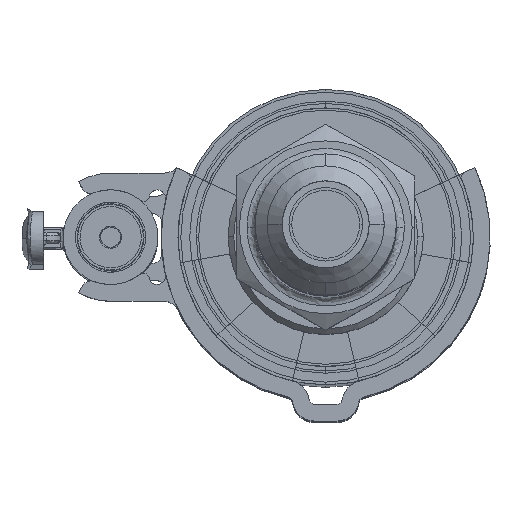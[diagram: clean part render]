
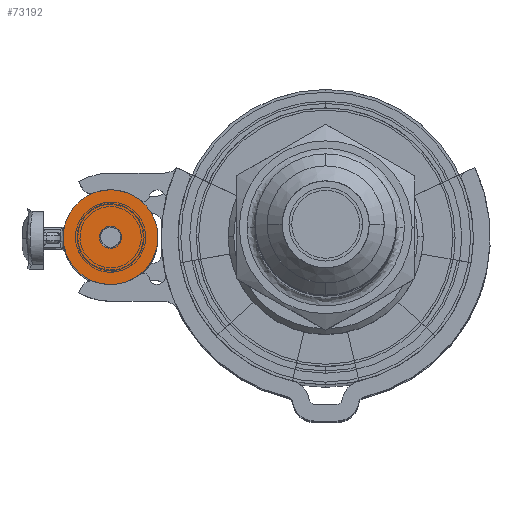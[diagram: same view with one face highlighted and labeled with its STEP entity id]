
A CAD part, top view. The second image highlights one B-rep face of the part: STEP entity #73192.
In plain terms, the highlighted planar face has unit normal (0, 0, 1) as drawn and (1, 0, 0) by its records, which use the part's own axes.
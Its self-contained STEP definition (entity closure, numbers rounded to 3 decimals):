
#3691 = EDGE_LOOP ( 'NONE', ( #46326, #62111 ) ) ;
#3835 = FACE_OUTER_BOUND ( 'NONE', #3691, .T. ) ;
#3983 = DIRECTION ( 'NONE',  ( -1., 0., 0. ) ) ;
#6310 = DIRECTION ( 'NONE',  ( 0., 0., -1. ) ) ;
#6573 = CIRCLE ( 'NONE', #28382, 4.25 ) ;
#16088 = CARTESIAN_POINT ( 'NONE',  ( 424.169, 14.095, 20. ) ) ;
#19881 = EDGE_CURVE ( 'NONE', #56633, #84940, #6573, .T. ) ;
#20196 = ORIENTED_EDGE ( 'NONE', *, *, #83480, .T. ) ;
#28216 = DIRECTION ( 'NONE',  ( -1., 0., 0. ) ) ;
#28382 = AXIS2_PLACEMENT_3D ( 'NONE', #88100, #43851, #95500 ) ;
#36430 = CARTESIAN_POINT ( 'NONE',  ( 424.169, 14.095, 19. ) ) ;
#42980 = AXIS2_PLACEMENT_3D ( 'NONE', #48153, #3983, #55612 ) ;
#43794 = DIRECTION ( 'NONE',  ( 0., 0., 1. ) ) ;
#43851 = DIRECTION ( 'NONE',  ( -1., 0., 0. ) ) ;
#46326 = ORIENTED_EDGE ( 'NONE', *, *, #19881, .F. ) ;
#48153 = CARTESIAN_POINT ( 'NONE',  ( 424.169, 14.095, 19. ) ) ;
#50504 = DIRECTION ( 'NONE',  ( 1., 0., 0. ) ) ;
#50872 = AXIS2_PLACEMENT_3D ( 'NONE', #72371, #28216, #79784 ) ;
#55612 = DIRECTION ( 'NONE',  ( 0., 0., -1. ) ) ;
#56203 = CIRCLE ( 'NONE', #42980, 1. ) ;
#56633 = VERTEX_POINT ( 'NONE', #84402 ) ;
#58210 = CIRCLE ( 'NONE', #50872, 1. ) ;
#60455 = FACE_BOUND ( 'NONE', #66031, .T. ) ;
#62111 = ORIENTED_EDGE ( 'NONE', *, *, #88989, .F. ) ;
#63800 = AXIS2_PLACEMENT_3D ( 'NONE', #36430, #88040, #43794 ) ;
#66031 = EDGE_LOOP ( 'NONE', ( #20196, #84658 ) ) ;
#72323 = EDGE_CURVE ( 'NONE', #77409, #73988, #58210, .T. ) ;
#72371 = CARTESIAN_POINT ( 'NONE',  ( 424.169, 14.095, 19. ) ) ;
#73192 = ADVANCED_FACE ( 'NONE', ( #3835, #60455 ), #94731, .T. ) ;
#73988 = VERTEX_POINT ( 'NONE', #76808 ) ;
#74318 = CARTESIAN_POINT ( 'NONE',  ( 424.169, 14.095, 14.75 ) ) ;
#76808 = CARTESIAN_POINT ( 'NONE',  ( 424.169, 14.095, 18. ) ) ;
#77409 = VERTEX_POINT ( 'NONE', #16088 ) ;
#79784 = DIRECTION ( 'NONE',  ( 0., 0., -1. ) ) ;
#79905 = CARTESIAN_POINT ( 'NONE',  ( 424.169, 18.345, 19. ) ) ;
#80028 = AXIS2_PLACEMENT_3D ( 'NONE', #79905, #50504, #6310 ) ;
#83480 = EDGE_CURVE ( 'NONE', #73988, #77409, #56203, .T. ) ;
#84402 = CARTESIAN_POINT ( 'NONE',  ( 424.169, 14.095, 23.25 ) ) ;
#84658 = ORIENTED_EDGE ( 'NONE', *, *, #72323, .T. ) ;
#84940 = VERTEX_POINT ( 'NONE', #74318 ) ;
#86929 = CIRCLE ( 'NONE', #63800, 4.25 ) ;
#88040 = DIRECTION ( 'NONE',  ( -1., 0., 0. ) ) ;
#88100 = CARTESIAN_POINT ( 'NONE',  ( 424.169, 14.095, 19. ) ) ;
#88989 = EDGE_CURVE ( 'NONE', #84940, #56633, #86929, .T. ) ;
#94731 = PLANE ( 'NONE',  #80028 ) ;
#95500 = DIRECTION ( 'NONE',  ( 0., 0., 1. ) ) ;
